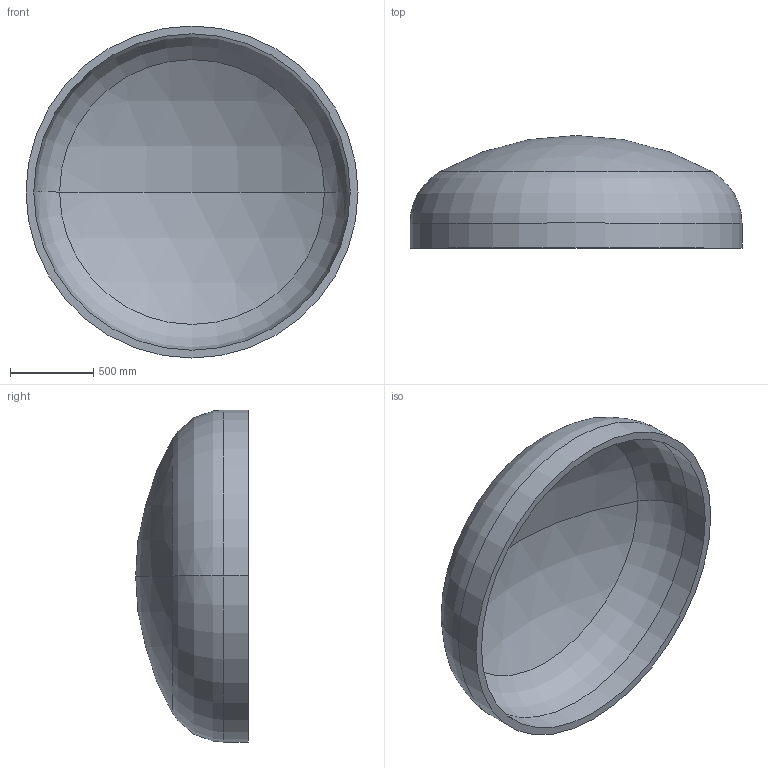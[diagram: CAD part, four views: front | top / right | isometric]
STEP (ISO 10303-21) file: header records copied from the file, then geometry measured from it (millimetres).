
FILE_DESCRIPTION (( 'STEP AP203' ), '1' );
FILE_NAME ('DIN 28013 Korbbogenform_-_Boden DIN 28013 - 2000 x 150 - I - s=47.step', '2016-07-01T13:54:56', ( '' ), ( '' ), 'SwSTEP 2.0', 'SolidWorks 2013', '' );
FILE_SCHEMA (( 'CONFIG_CONTROL_DESIGN' ));
Length unit declared in the file: millimetre
Products named in the file (1): DIN 28013 Korbbogenform_-_Boden DIN 28013 - 2000 x 150 - I - s=47
Bounding box: 2000 x 678.67 x 2000 mm (x, y, z)
Volume: 241797844.4 mm3; surface area: 10582263.4 mm2
Topology: 1 solids, 1 shells, 13 faces, 24 edges, 14 vertices
Faces by surface type: torus 4, cylinder 4, sphere 4, plane 1
Entity records: 407 total; most frequent: DIRECTION 72, CARTESIAN_POINT 52, ORIENTED_EDGE 48, AXIS2_PLACEMENT_3D 34, EDGE_CURVE 24, CIRCLE 20, EDGE_LOOP 14, VERTEX_POINT 14
